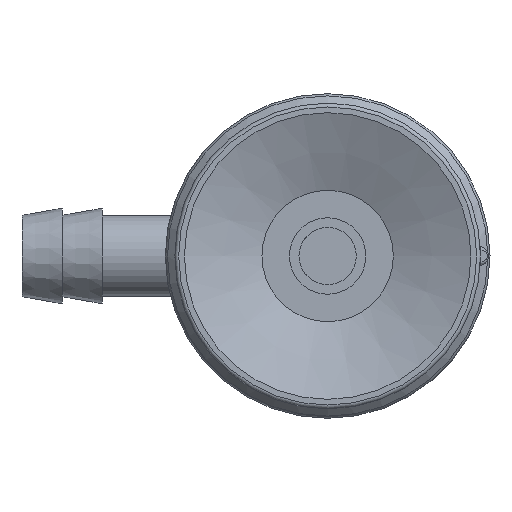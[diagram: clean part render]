
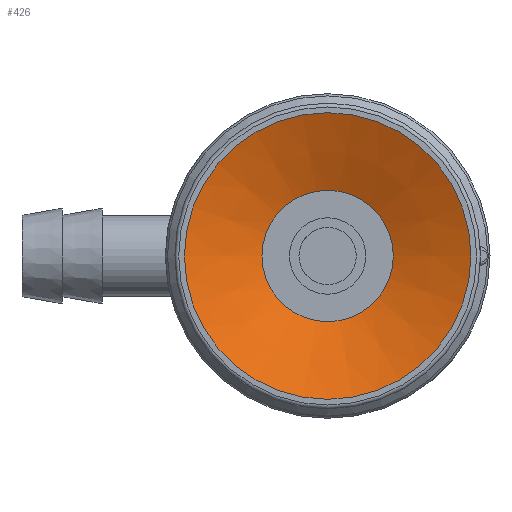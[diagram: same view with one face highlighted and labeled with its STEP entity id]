
A CAD part, front view. The second image highlights one B-rep face of the part: STEP entity #426.
In plain terms, the highlighted conical face has half-angle 67.5 degrees and reference radius 3.437 mm.
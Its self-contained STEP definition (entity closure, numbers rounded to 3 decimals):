
#426=ADVANCED_FACE('',(#634,#635),#636,.F.);
#634=FACE_BOUND('',#1870,.T.);
#635=FACE_OUTER_BOUND('',#1871,.T.);
#636=CONICAL_SURFACE('',#1872,3.437,1.178);
#1870=EDGE_LOOP('',(#2364));
#1871=EDGE_LOOP('',(#2365));
#1872=AXIS2_PLACEMENT_3D('',#2366,#2367,#2368);
#2364=ORIENTED_EDGE('',*,*,#2557,.F.);
#2365=ORIENTED_EDGE('',*,*,#2552,.T.);
#2366=CARTESIAN_POINT('',(0.0,0.0,1.683));
#2367=DIRECTION('',(0.0,0.,-1.0));
#2368=DIRECTION('',(0.0,1.0,0.));
#2552=EDGE_CURVE('',#2790,#2790,#2791,.T.);
#2557=EDGE_CURVE('',#2800,#2800,#2801,.T.);
#2790=VERTEX_POINT('',#3537);
#2791=CIRCLE('',#3538,7.5);
#2800=VERTEX_POINT('',#3547);
#2801=CIRCLE('',#3548,3.437);
#3537=CARTESIAN_POINT('',(-7.5,0.0,0.));
#3538=AXIS2_PLACEMENT_3D('',#3753,#3754,#3755);
#3547=CARTESIAN_POINT('',(-3.437,0.0,1.683));
#3548=AXIS2_PLACEMENT_3D('',#3768,#3769,#3770);
#3753=CARTESIAN_POINT('',(0.0,0.0,0.));
#3754=DIRECTION('',(0.0,0.,-1.0));
#3755=DIRECTION('',(0.0,1.0,0.));
#3768=CARTESIAN_POINT('',(0.0,0.0,1.683));
#3769=DIRECTION('',(0.0,0.,-1.0));
#3770=DIRECTION('',(0.0,1.0,0.));
